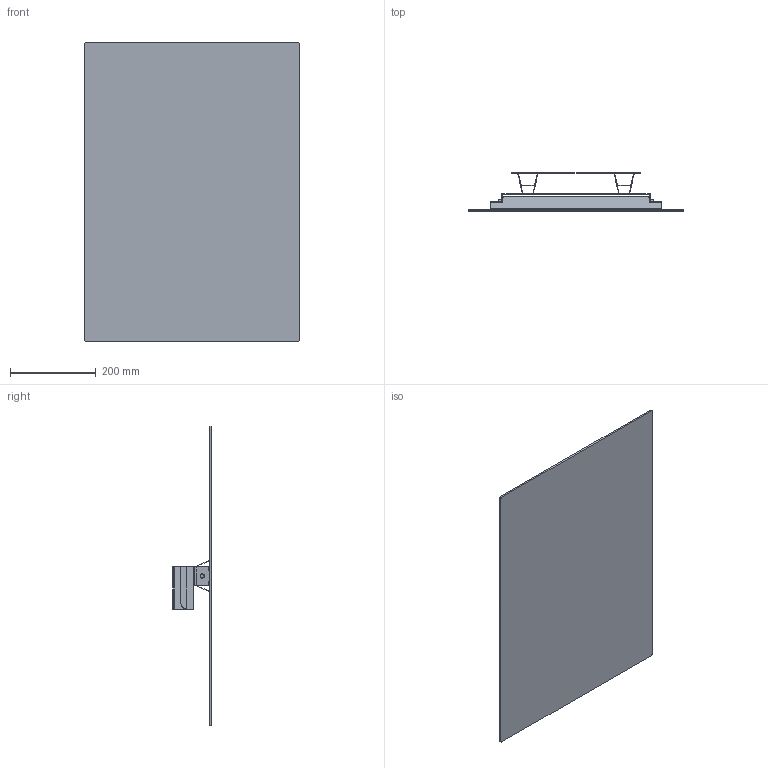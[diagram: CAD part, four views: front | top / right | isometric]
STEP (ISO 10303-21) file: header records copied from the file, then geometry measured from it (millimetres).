
FILE_DESCRIPTION((''),'2;1');
FILE_NAME('S5059_ASM','2013-05-17T',('totevd'),('AMERICAN STANDARD B&K'),'PRO/ENGINEER BY PARAMETRIC TECHNOLOGY CORPORATION, 2011330','PRO/ENGINEER BY PARAMETRIC TECHNOLOGY CORPORATION, 2011330','');
FILE_SCHEMA(('CONFIG_CONTROL_DESIGN'));
Length unit declared in the file: millimetre
Products named in the file (4): S5059_MRR_SIMPLE; S5059_TILTING_BRACKET; S5059_WALL_BRACKET; S5059_ASM
Assembly tree (3 placements, depth 2):
  S5059_ASM
    S5059_MRR_SIMPLE
    S5059_TILTING_BRACKET
    S5059_WALL_BRACKET
Bounding box: 500 x 90 x 700 mm (x, y, z)
Volume: 1661088.3 mm3; surface area: 1220013 mm2
Topology: 4 solids, 4 shells, 158 faces, 424 edges, 276 vertices
Faces by surface type: plane 118, cylinder 40
Entity records: 5106 total; most frequent: CARTESIAN_POINT 1025, ORIENTED_EDGE 848, DIRECTION 782, EDGE_CURVE 424, VECTOR 356, LINE 356, VERTEX_POINT 276, AXIS2_PLACEMENT_3D 213
